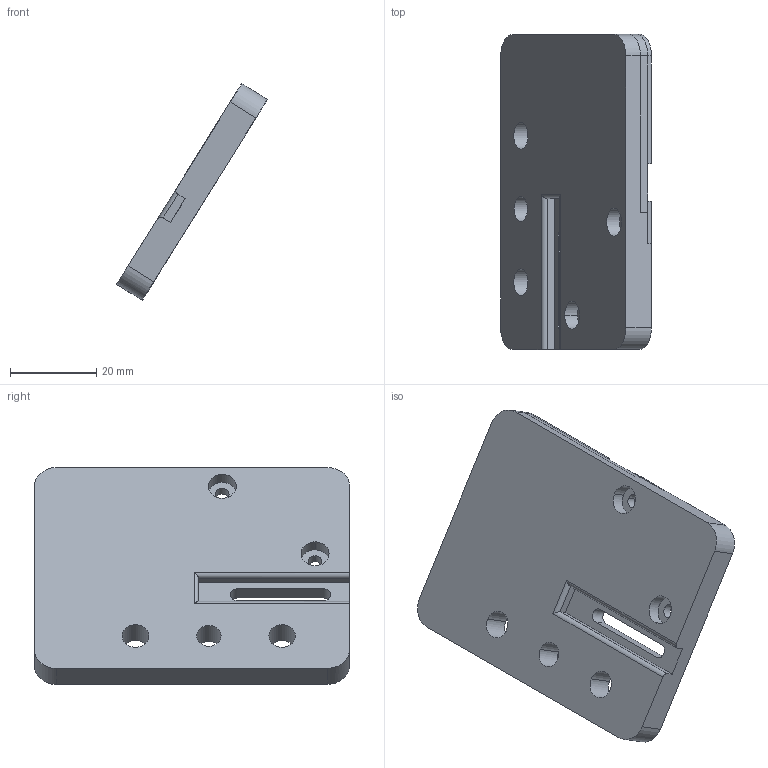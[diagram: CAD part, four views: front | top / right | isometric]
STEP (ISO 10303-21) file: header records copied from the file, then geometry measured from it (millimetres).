
FILE_DESCRIPTION(('CATIA V5 STEP Exchange'),'2;1');
FILE_NAME('C:\Users\Administrator\Desktop\自适应底板--尼龙.stp','2022-02-15T06:54:52+00:00',('none'),('none'),'CATIA Version 5 Release 20 GA (IN-10)','CATIA V5 STEP AP214','none');
FILE_SCHEMA(('AUTOMOTIVE_DESIGN { 1 0 10303 214 1 1 1 1 }'));
Length unit declared in the file: millimetre
Products named in the file (1): 573.4601.01_V1
Bounding box: 34.95 x 73 x 50.24 mm (x, y, z)
Volume: 21606.9 mm3; surface area: 11670 mm2
Topology: 1 solids, 1 shells, 102 faces, 286 edges, 189 vertices
Faces by surface type: plane 68, cylinder 34
Entity records: 3755 total; most frequent: CARTESIAN_POINT 865, ORIENTED_EDGE 572, DIRECTION 413, EDGE_CURVE 286, VECTOR 203, LINE 203, VERTEX_POINT 189, AXIS2_PLACEMENT_3D 127
